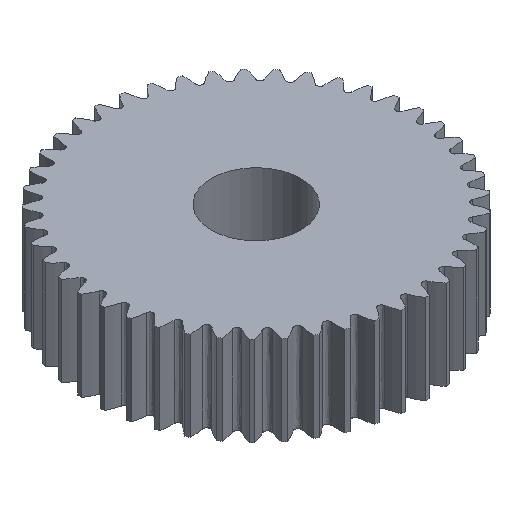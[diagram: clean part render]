
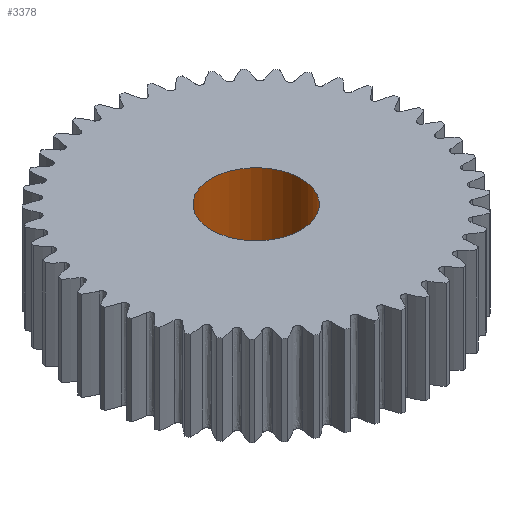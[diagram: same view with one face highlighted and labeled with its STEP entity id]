
A CAD part, isometric view. The second image highlights one B-rep face of the part: STEP entity #3378.
In plain terms, the highlighted cylindrical face has radius 6.35 mm (diameter 12.7 mm), a full revolution.
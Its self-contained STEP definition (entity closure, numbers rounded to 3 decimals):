
#69=CIRCLE('',#3443,6.35);
#114=CIRCLE('',#3533,6.35);
#160=CYLINDRICAL_SURFACE('',#3532,6.35);
#251=LINE('',#28716,#342);
#342=VECTOR('',#3908,6.35);
#794=FACE_OUTER_BOUND('',#978,.T.);
#978=EDGE_LOOP('',(#2967,#2968,#2969,#2970));
#1349=VERTEX_POINT('',#9574);
#1522=VERTEX_POINT('',#28714);
#1718=EDGE_CURVE('',#1349,#1349,#69,.T.);
#2064=EDGE_CURVE('',#1522,#1522,#114,.T.);
#2065=EDGE_CURVE('',#1522,#1349,#251,.T.);
#2967=ORIENTED_EDGE('',*,*,#2064,.F.);
#2968=ORIENTED_EDGE('',*,*,#2065,.T.);
#2969=ORIENTED_EDGE('',*,*,#1718,.T.);
#2970=ORIENTED_EDGE('',*,*,#2065,.F.);
#3378=ADVANCED_FACE('',(#794),#160,.F.);
#3443=AXIS2_PLACEMENT_3D('',#9575,#3640,#3641);
#3532=AXIS2_PLACEMENT_3D('',#28713,#3904,#3905);
#3533=AXIS2_PLACEMENT_3D('',#28715,#3906,#3907);
#3640=DIRECTION('center_axis',(0.,0.,-1.));
#3641=DIRECTION('ref_axis',(1.,0.,0.));
#3904=DIRECTION('center_axis',(0.,0.,1.));
#3905=DIRECTION('ref_axis',(1.,0.,0.));
#3906=DIRECTION('center_axis',(0.,0.,-1.));
#3907=DIRECTION('ref_axis',(1.,0.,0.));
#3908=DIRECTION('',(0.,0.,-1.));
#9574=CARTESIAN_POINT('',(-6.35,0.,0.));
#9575=CARTESIAN_POINT('Origin',(0.,0.,0.));
#28713=CARTESIAN_POINT('Origin',(0.,0.,0.));
#28714=CARTESIAN_POINT('',(-6.35,0.,12.7));
#28715=CARTESIAN_POINT('Origin',(0.,0.,12.7));
#28716=CARTESIAN_POINT('',(-6.35,0.,0.));
